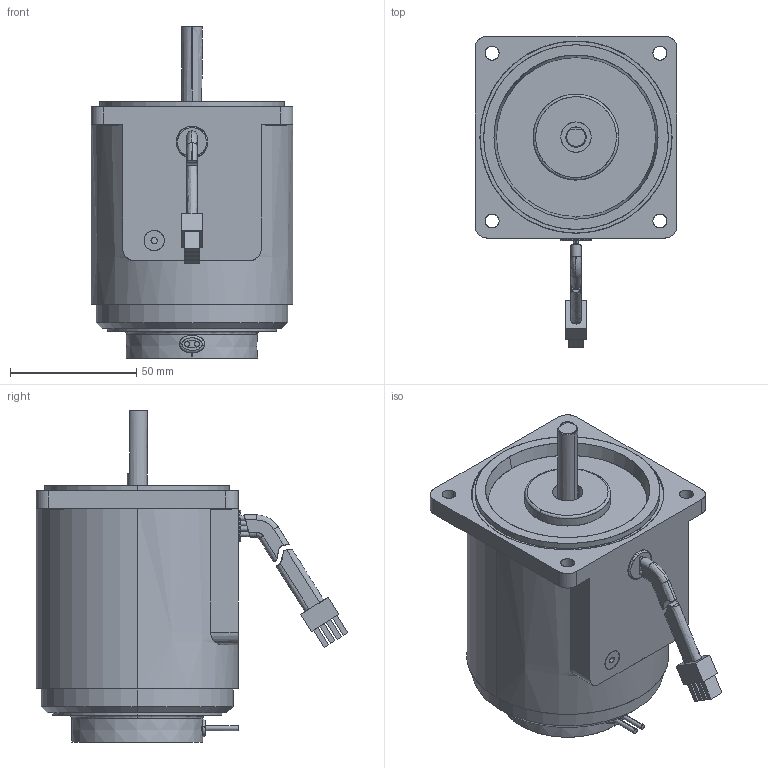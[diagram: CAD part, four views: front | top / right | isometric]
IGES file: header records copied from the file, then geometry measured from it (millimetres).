
Start section: SolidWorks IGES file using analytic representation for surfaces
Global section: file name: \\楷备家烹钦辑滚\data (D)\档搁 枚\权其捞瘤 档搁\7. SPEED INDUCTION\80\15W\(7-17) 8SDD∴-15.IGS; native system: SolidWorks 2007; preprocessor: SolidWorks 2007; author: user; date: 150702.142509; units: millimetre
Bounding box: 80 x 123.4 x 131.5 mm (x, y, z)
Surface area: 87358.7 mm2 (no closed solid volume)
Topology: 0 solids, 0 shells, 242 faces, 4856 edges, 4856 vertices
Faces by surface type: bspline 147, revolution 95
